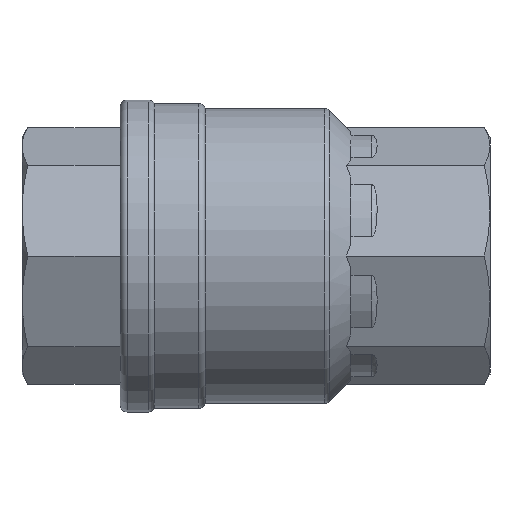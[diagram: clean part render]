
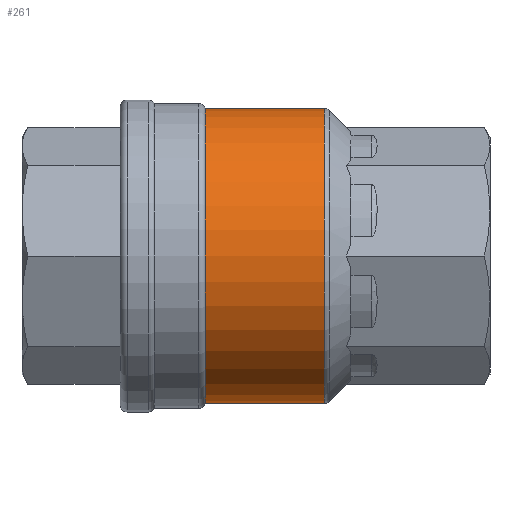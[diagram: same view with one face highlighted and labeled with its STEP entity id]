
A CAD part, front view. The second image highlights one B-rep face of the part: STEP entity #261.
In plain terms, the highlighted cylindrical face has radius 43.5 mm (diameter 87 mm), a partial arc.
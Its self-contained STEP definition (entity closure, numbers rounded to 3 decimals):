
#2 = EDGE_CURVE ( 'NONE', #2792, #2750, #3015, .T. ) ;
#261 = ADVANCED_FACE ( 'NONE', ( #4000 ), #3995, .T. ) ;
#844 = DIRECTION ( 'NONE',  ( 1., 0., 0. ) ) ;
#847 = DIRECTION ( 'NONE',  ( 0., 0., -1. ) ) ;
#852 = CARTESIAN_POINT ( 'NONE',  ( -15., 0., 0. ) ) ;
#1514 = CARTESIAN_POINT ( 'NONE',  ( -15., 0., 0. ) ) ;
#1519 = CARTESIAN_POINT ( 'NONE',  ( 20.172, 0., 0. ) ) ;
#1520 = DIRECTION ( 'NONE',  ( -1., 0., 0. ) ) ;
#1521 = DIRECTION ( 'NONE',  ( 0., 0., -1. ) ) ;
#1526 = DIRECTION ( 'NONE',  ( 1., 0., 0. ) ) ;
#1527 = DIRECTION ( 'NONE',  ( 0., 0., 1. ) ) ;
#1943 = CARTESIAN_POINT ( 'NONE',  ( 20.172, 0., -43.5 ) ) ;
#1945 = CARTESIAN_POINT ( 'NONE',  ( 20.172, 0., 43.5 ) ) ;
#1987 = CARTESIAN_POINT ( 'NONE',  ( -15., 0., 43.5 ) ) ;
#1991 = CARTESIAN_POINT ( 'NONE',  ( -15., 0., -43.5 ) ) ;
#2072 = CARTESIAN_POINT ( 'NONE',  ( -15., 0., -43.5 ) ) ;
#2073 = DIRECTION ( 'NONE',  ( 1., 0., 0. ) ) ;
#2246 = EDGE_CURVE ( 'NONE', #2748, #2750, #4197, .T. ) ;
#2248 = EDGE_CURVE ( 'NONE', #2792, #2796, #4201, .T. ) ;
#2431 = AXIS2_PLACEMENT_3D ( 'NONE', #852, #844, #847 ) ;
#2476 = AXIS2_PLACEMENT_3D ( 'NONE', #1519, #1520, #1521 ) ;
#2484 = AXIS2_PLACEMENT_3D ( 'NONE', #1514, #1526, #1527 ) ;
#2713 = DIRECTION ( 'NONE',  ( 1., 0., 0. ) ) ;
#2737 = CARTESIAN_POINT ( 'NONE',  ( -15., 0., 43.5 ) ) ;
#2748 = VERTEX_POINT ( 'NONE', #1943 ) ;
#2750 = VERTEX_POINT ( 'NONE', #1945 ) ;
#2792 = VERTEX_POINT ( 'NONE', #1987 ) ;
#2796 = VERTEX_POINT ( 'NONE', #1991 ) ;
#3015 = LINE ( 'NONE', #2737, #3016 ) ;
#3016 = VECTOR ( 'NONE', #2713, 1000. ) ;
#3432 = EDGE_LOOP ( 'NONE', ( #3728, #3727, #3726, #3725 ) ) ;
#3725 = ORIENTED_EDGE ( 'NONE', *, *, #2246, .T. ) ;
#3726 = ORIENTED_EDGE ( 'NONE', *, *, #3759, .T. ) ;
#3727 = ORIENTED_EDGE ( 'NONE', *, *, #2248, .T. ) ;
#3728 = ORIENTED_EDGE ( 'NONE', *, *, #2, .F. ) ;
#3759 = EDGE_CURVE ( 'NONE', #2796, #2748, #4263, .T. ) ;
#3995 = CYLINDRICAL_SURFACE ( 'NONE', #2431, 43.5 ) ;
#4000 = FACE_OUTER_BOUND ( 'NONE', #3432, .T. ) ;
#4197 = CIRCLE ( 'NONE', #2476, 43.5 ) ;
#4201 = CIRCLE ( 'NONE', #2484, 43.5 ) ;
#4263 = LINE ( 'NONE', #2072, #4273 ) ;
#4273 = VECTOR ( 'NONE', #2073, 1000. ) ;
